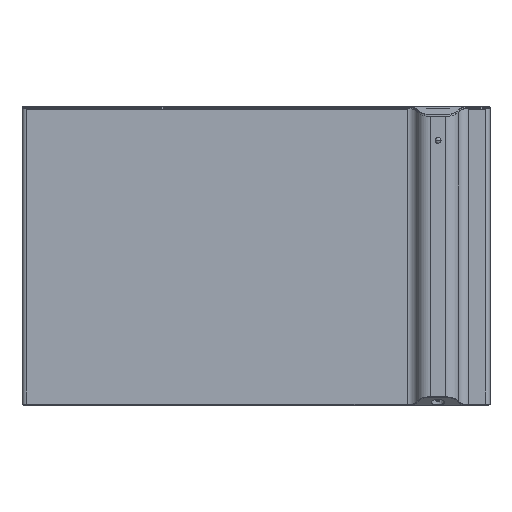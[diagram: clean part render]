
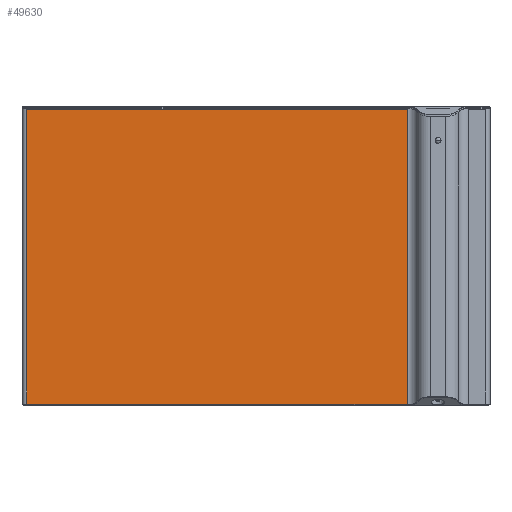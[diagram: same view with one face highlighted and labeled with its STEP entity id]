
A CAD part, top view. The second image highlights one B-rep face of the part: STEP entity #49630.
In plain terms, the highlighted planar face has unit normal (0, 0, 1).
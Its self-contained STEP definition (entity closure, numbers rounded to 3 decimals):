
#49080 = VERTEX_POINT('',#49081);
#49081 = CARTESIAN_POINT('',(255.562,-250.,30.));
#49099 = EDGE_CURVE('',#49080,#49100,#49102,.T.);
#49100 = VERTEX_POINT('',#49101);
#49101 = CARTESIAN_POINT('',(255.562,250.,30.));
#49102 = LINE('',#49103,#49104);
#49103 = CARTESIAN_POINT('',(255.562,-250.,30.));
#49104 = VECTOR('',#49105,1.);
#49105 = DIRECTION('',(0.,1.,0.));
#49360 = EDGE_CURVE('',#49100,#49361,#49363,.T.);
#49361 = VERTEX_POINT('',#49362);
#49362 = CARTESIAN_POINT('',(254.737,250.,30.));
#49363 = LINE('',#49364,#49365);
#49364 = CARTESIAN_POINT('',(255.562,250.,30.));
#49365 = VECTOR('',#49366,1.);
#49366 = DIRECTION('',(-1.,0.,0.));
#49552 = EDGE_CURVE('',#49553,#49555,#49557,.T.);
#49553 = VERTEX_POINT('',#49554);
#49554 = CARTESIAN_POINT('',(-386.546,-248.8,30.));
#49555 = VERTEX_POINT('',#49556);
#49556 = CARTESIAN_POINT('',(-387.,-248.8,30.));
#49557 = LINE('',#49558,#49559);
#49558 = CARTESIAN_POINT('',(-386.546,-248.8,30.));
#49559 = VECTOR('',#49560,1.);
#49560 = DIRECTION('',(-1.,0.,0.));
#49612 = EDGE_CURVE('',#49553,#49613,#49615,.T.);
#49613 = VERTEX_POINT('',#49614);
#49614 = CARTESIAN_POINT('',(-386.546,-250.3,30.));
#49615 = LINE('',#49616,#49617);
#49616 = CARTESIAN_POINT('',(-386.546,-248.8,30.));
#49617 = VECTOR('',#49618,1.);
#49618 = DIRECTION('',(0.,-1.,0.));
#49630 = ADVANCED_FACE('',(#49631),#49705,.T.);
#49631 = FACE_BOUND('',#49632,.F.);
#49632 = EDGE_LOOP('',(#49633,#49634,#49642,#49650,#49658,#49666,#49672,
    #49673,#49674,#49682,#49690,#49698,#49704));
#49633 = ORIENTED_EDGE('',*,*,#49552,.T.);
#49634 = ORIENTED_EDGE('',*,*,#49635,.F.);
#49635 = EDGE_CURVE('',#49636,#49555,#49638,.T.);
#49636 = VERTEX_POINT('',#49637);
#49637 = CARTESIAN_POINT('',(-387.,250.,30.));
#49638 = LINE('',#49639,#49640);
#49639 = CARTESIAN_POINT('',(-387.,250.,30.));
#49640 = VECTOR('',#49641,1.);
#49641 = DIRECTION('',(0.,-1.,0.));
#49642 = ORIENTED_EDGE('',*,*,#49643,.T.);
#49643 = EDGE_CURVE('',#49636,#49644,#49646,.T.);
#49644 = VERTEX_POINT('',#49645);
#49645 = CARTESIAN_POINT('',(-386.437,250.,30.));
#49646 = LINE('',#49647,#49648);
#49647 = CARTESIAN_POINT('',(-387.,250.,30.));
#49648 = VECTOR('',#49649,1.);
#49649 = DIRECTION('',(1.,0.,0.));
#49650 = ORIENTED_EDGE('',*,*,#49651,.T.);
#49651 = EDGE_CURVE('',#49644,#49652,#49654,.T.);
#49652 = VERTEX_POINT('',#49653);
#49653 = CARTESIAN_POINT('',(-386.,248.8,30.));
#49654 = LINE('',#49655,#49656);
#49655 = CARTESIAN_POINT('',(-386.437,250.,30.));
#49656 = VECTOR('',#49657,1.);
#49657 = DIRECTION('',(0.342,-0.94,0.));
#49658 = ORIENTED_EDGE('',*,*,#49659,.F.);
#49659 = EDGE_CURVE('',#49660,#49652,#49662,.T.);
#49660 = VERTEX_POINT('',#49661);
#49661 = CARTESIAN_POINT('',(254.3,248.8,30.));
#49662 = LINE('',#49663,#49664);
#49663 = CARTESIAN_POINT('',(254.3,248.8,30.));
#49664 = VECTOR('',#49665,1.);
#49665 = DIRECTION('',(-1.,0.,0.));
#49666 = ORIENTED_EDGE('',*,*,#49667,.F.);
#49667 = EDGE_CURVE('',#49361,#49660,#49668,.T.);
#49668 = LINE('',#49669,#49670);
#49669 = CARTESIAN_POINT('',(254.737,250.,30.));
#49670 = VECTOR('',#49671,1.);
#49671 = DIRECTION('',(-0.342,-0.94,0.));
#49672 = ORIENTED_EDGE('',*,*,#49360,.F.);
#49673 = ORIENTED_EDGE('',*,*,#49099,.F.);
#49674 = ORIENTED_EDGE('',*,*,#49675,.T.);
#49675 = EDGE_CURVE('',#49080,#49676,#49678,.T.);
#49676 = VERTEX_POINT('',#49677);
#49677 = CARTESIAN_POINT('',(250.437,-250.,30.));
#49678 = LINE('',#49679,#49680);
#49679 = CARTESIAN_POINT('',(255.562,-250.,30.));
#49680 = VECTOR('',#49681,1.);
#49681 = DIRECTION('',(-1.,0.,0.));
#49682 = ORIENTED_EDGE('',*,*,#49683,.T.);
#49683 = EDGE_CURVE('',#49676,#49684,#49686,.T.);
#49684 = VERTEX_POINT('',#49685);
#49685 = CARTESIAN_POINT('',(250.,-248.8,30.));
#49686 = LINE('',#49687,#49688);
#49687 = CARTESIAN_POINT('',(250.437,-250.,30.));
#49688 = VECTOR('',#49689,1.);
#49689 = DIRECTION('',(-0.342,0.94,0.));
#49690 = ORIENTED_EDGE('',*,*,#49691,.F.);
#49691 = EDGE_CURVE('',#49692,#49684,#49694,.T.);
#49692 = VERTEX_POINT('',#49693);
#49693 = CARTESIAN_POINT('',(-386.,-248.8,30.));
#49694 = LINE('',#49695,#49696);
#49695 = CARTESIAN_POINT('',(-386.,-248.8,30.));
#49696 = VECTOR('',#49697,1.);
#49697 = DIRECTION('',(1.,0.,0.));
#49698 = ORIENTED_EDGE('',*,*,#49699,.F.);
#49699 = EDGE_CURVE('',#49613,#49692,#49700,.T.);
#49700 = LINE('',#49701,#49702);
#49701 = CARTESIAN_POINT('',(-386.546,-250.3,30.));
#49702 = VECTOR('',#49703,1.);
#49703 = DIRECTION('',(0.342,0.94,0.));
#49704 = ORIENTED_EDGE('',*,*,#49612,.F.);
#49705 = PLANE('',#49706);
#49706 = AXIS2_PLACEMENT_3D('',#49707,#49708,#49709);
#49707 = CARTESIAN_POINT('',(-395.,-250.,30.));
#49708 = DIRECTION('',(0.,0.,1.));
#49709 = DIRECTION('',(1.,0.,-0.));
